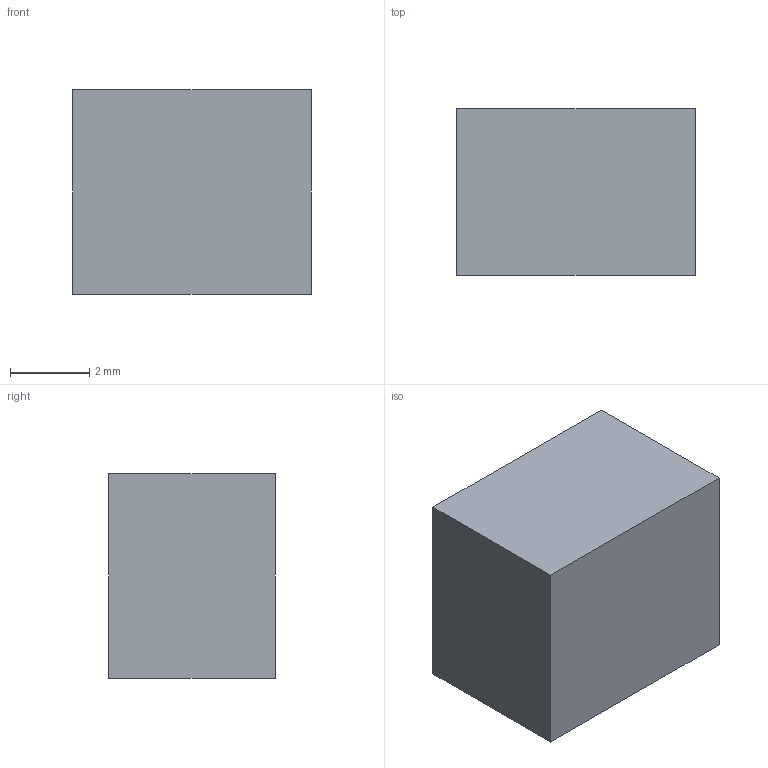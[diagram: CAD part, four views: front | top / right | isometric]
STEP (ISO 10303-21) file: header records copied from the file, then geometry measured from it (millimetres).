
FILE_DESCRIPTION(('Open CASCADE Model'),'2;1');
FILE_NAME('R36_J2_CK_2_CATALOG_EXTERNAL_GAUGE','2026-09-15T13:10:27',( 'Author'),('Open CASCADE'),'Open CASCADE STEP processor 7.9', 'build123d','Unknown');
FILE_SCHEMA(('AUTOMOTIVE_DESIGN { 1 0 10303 214 1 1 1 1 }'));
Length unit declared in the file: millimetre
Products named in the file (1): R36_J2_CK_2_CATALOG_EXTERNAL_GAUGE
Bounding box: 6 x 4.2 x 5.15 mm (x, y, z)
Volume: 129.8 mm3; surface area: 155.5 mm2
Topology: 1 solids, 1 shells, 6 faces, 12 edges, 8 vertices
Faces by surface type: plane 6
Entity records: 322 total; most frequent: CARTESIAN_POINT 51, DIRECTION 50, LINE 36, VECTOR 36, ORIENTED_EDGE 24, PCURVE 24, DEFINITIONAL_REPRESENTATION 24, EDGE_CURVE 12
